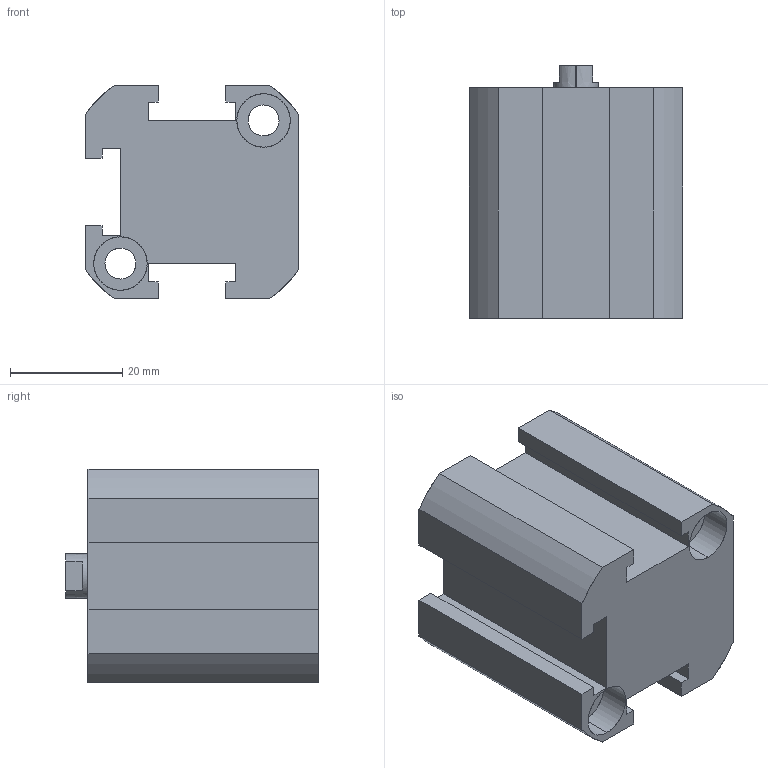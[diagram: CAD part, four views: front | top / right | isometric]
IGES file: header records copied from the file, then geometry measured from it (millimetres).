
Start section: SolidWorks IGES file using analytic representation for surfaces
Global section: file name: C:\Users\Toshiba\Desktop\XG#2-20D-10.IGS; native system: SolidWorks 2014; preprocessor: SolidWorks 2014; author: Toshiba; date: 160524.094650; units: millimetre
Bounding box: 38 x 45 x 38 mm (x, y, z)
Surface area: 12765.4 mm2 (no closed solid volume)
Topology: 0 solids, 0 shells, 89 faces, 1259 edges, 1253 vertices
Faces by surface type: revolution 45, bspline 44
